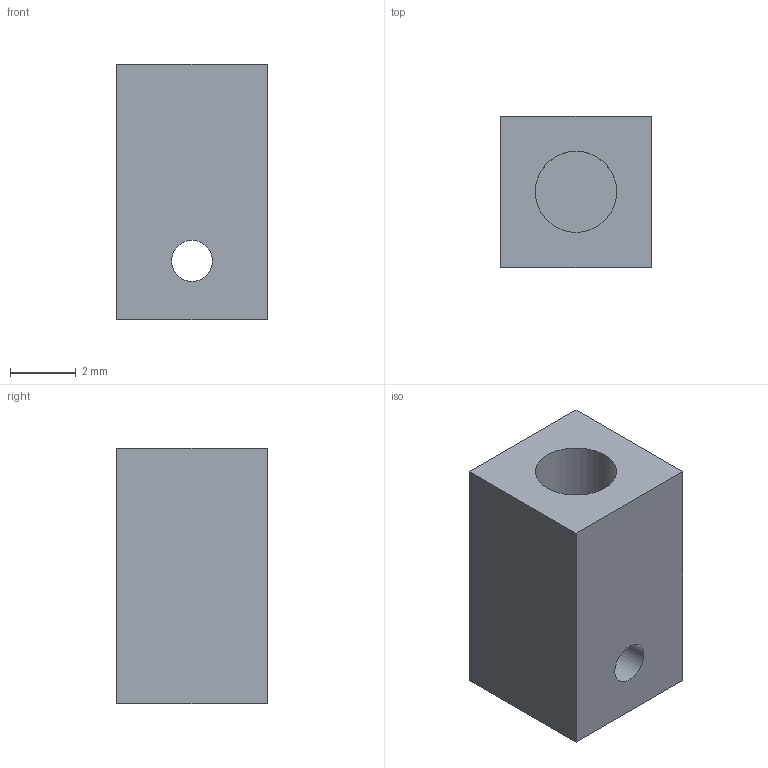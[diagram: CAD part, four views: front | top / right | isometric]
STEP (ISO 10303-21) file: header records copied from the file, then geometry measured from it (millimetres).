
FILE_DESCRIPTION(('Open CASCADE Model'),'2;1');
FILE_NAME('Open CASCADE Shape Model','2026-10-07T11:47:17',('Author'),( 'Open CASCADE'),'Open CASCADE STEP processor 7.9','Open CASCADE 7.9' ,'Unknown');
FILE_SCHEMA(('AUTOMOTIVE_DESIGN { 1 0 10303 214 1 1 1 1 }'));
Length unit declared in the file: millimetre
Products named in the file (1): Open CASCADE STEP translator 7.9 23
Bounding box: 4.6 x 4.6 x 7.8 mm (x, y, z)
Volume: 139.6 mm3; surface area: 233.4 mm2
Topology: 1 solids, 1 shells, 9 faces, 18 edges, 12 vertices
Faces by surface type: plane 7, cylinder 2
Full cylindrical faces by diameter (mm): 1.25 x1, 2.48 x1
Entity records: 484 total; most frequent: DIRECTION 78, CARTESIAN_POINT 76, LINE 46, VECTOR 46, ORIENTED_EDGE 36, PCURVE 36, DEFINITIONAL_REPRESENTATION 36, EDGE_CURVE 18
